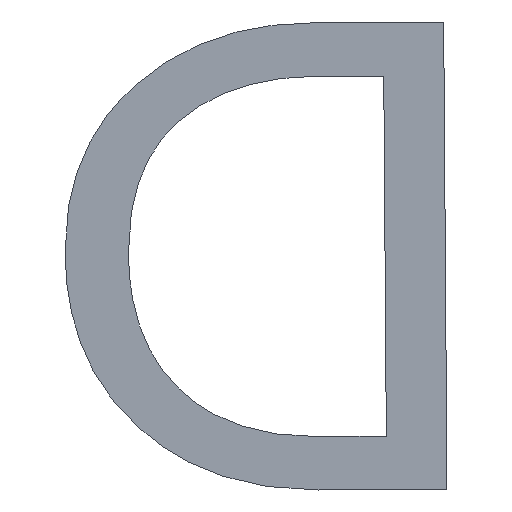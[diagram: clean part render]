
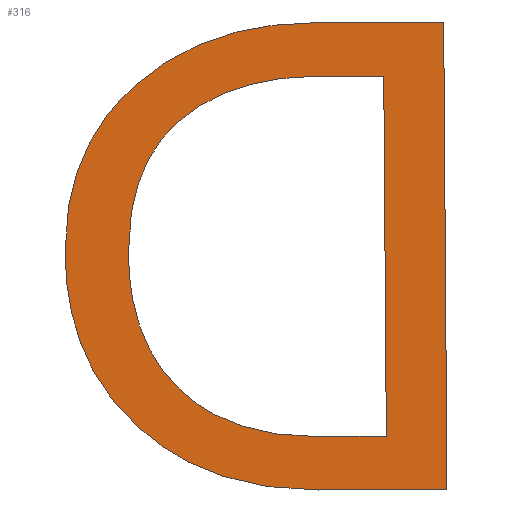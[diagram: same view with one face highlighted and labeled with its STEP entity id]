
A CAD part, front view. The second image highlights one B-rep face of the part: STEP entity #316.
In plain terms, the highlighted planar face has unit normal (0, -1, 0).
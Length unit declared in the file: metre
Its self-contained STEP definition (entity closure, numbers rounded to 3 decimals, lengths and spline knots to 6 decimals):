
#18=PLANE('',#434);
#25=LINE('',#561,#51);
#28=LINE('',#567,#54);
#31=LINE('',#573,#57);
#33=LINE('',#576,#59);
#37=LINE('',#585,#63);
#44=LINE('',#667,#70);
#51=VECTOR('',#445,1.);
#54=VECTOR('',#450,1.);
#57=VECTOR('',#455,1.);
#59=VECTOR('',#459,1.);
#63=VECTOR('',#465,1.);
#70=VECTOR('',#474,1.);
#128=ORIENTED_EDGE('',*,*,#175,.T.);
#129=ORIENTED_EDGE('',*,*,#172,.T.);
#130=ORIENTED_EDGE('',*,*,#169,.T.);
#131=ORIENTED_EDGE('',*,*,#166,.T.);
#132=ORIENTED_EDGE('',*,*,#163,.T.);
#133=ORIENTED_EDGE('',*,*,#160,.T.);
#134=ORIENTED_EDGE('',*,*,#156,.T.);
#135=ORIENTED_EDGE('',*,*,#196,.F.);
#136=ORIENTED_EDGE('',*,*,#177,.F.);
#137=ORIENTED_EDGE('',*,*,#181,.F.);
#138=ORIENTED_EDGE('',*,*,#184,.F.);
#139=ORIENTED_EDGE('',*,*,#187,.F.);
#140=ORIENTED_EDGE('',*,*,#190,.F.);
#141=ORIENTED_EDGE('',*,*,#193,.F.);
#156=EDGE_CURVE('',#198,#199,#226,.T.);
#160=EDGE_CURVE('',#202,#198,#228,.T.);
#163=EDGE_CURVE('',#204,#202,#230,.T.);
#166=EDGE_CURVE('',#206,#204,#232,.T.);
#169=EDGE_CURVE('',#208,#206,#25,.T.);
#172=EDGE_CURVE('',#210,#208,#28,.T.);
#175=EDGE_CURVE('',#199,#210,#31,.T.);
#177=EDGE_CURVE('',#212,#213,#33,.T.);
#181=EDGE_CURVE('',#216,#212,#37,.T.);
#184=EDGE_CURVE('',#218,#216,#234,.T.);
#187=EDGE_CURVE('',#220,#218,#236,.T.);
#190=EDGE_CURVE('',#222,#220,#238,.T.);
#193=EDGE_CURVE('',#224,#222,#240,.T.);
#196=EDGE_CURVE('',#213,#224,#44,.T.);
#198=VERTEX_POINT('',#493);
#199=VERTEX_POINT('',#494);
#202=VERTEX_POINT('',#515);
#204=VERTEX_POINT('',#534);
#206=VERTEX_POINT('',#553);
#208=VERTEX_POINT('',#562);
#210=VERTEX_POINT('',#568);
#212=VERTEX_POINT('',#577);
#213=VERTEX_POINT('',#578);
#216=VERTEX_POINT('',#586);
#218=VERTEX_POINT('',#602);
#220=VERTEX_POINT('',#621);
#222=VERTEX_POINT('',#640);
#224=VERTEX_POINT('',#659);
#226=B_SPLINE_CURVE_WITH_KNOTS('',3,(#489,#490,#491,#492),.UNSPECIFIED.,
 .F.,.F.,(4,4),(5.,6.),.UNSPECIFIED.);
#228=B_SPLINE_CURVE_WITH_KNOTS('',3,(#511,#512,#513,#514),.UNSPECIFIED.,
 .F.,.F.,(4,4),(4.,5.),.UNSPECIFIED.);
#230=B_SPLINE_CURVE_WITH_KNOTS('',3,(#530,#531,#532,#533),.UNSPECIFIED.,
 .F.,.F.,(4,4),(3.,4.),.UNSPECIFIED.);
#232=B_SPLINE_CURVE_WITH_KNOTS('',3,(#549,#550,#551,#552),.UNSPECIFIED.,
 .F.,.F.,(4,4),(2.,3.),.UNSPECIFIED.);
#234=B_SPLINE_CURVE_WITH_KNOTS('',3,(#598,#599,#600,#601),.UNSPECIFIED.,
 .F.,.F.,(4,4),(2.,3.),.UNSPECIFIED.);
#236=B_SPLINE_CURVE_WITH_KNOTS('',3,(#617,#618,#619,#620),.UNSPECIFIED.,
 .F.,.F.,(4,4),(3.,4.),.UNSPECIFIED.);
#238=B_SPLINE_CURVE_WITH_KNOTS('',3,(#636,#637,#638,#639),.UNSPECIFIED.,
 .F.,.F.,(4,4),(4.,5.),.UNSPECIFIED.);
#240=B_SPLINE_CURVE_WITH_KNOTS('',3,(#655,#656,#657,#658),.UNSPECIFIED.,
 .F.,.F.,(4,4),(5.,6.),.UNSPECIFIED.);
#256=EDGE_LOOP('',(#128,#129,#130,#131,#132,#133,#134));
#257=EDGE_LOOP('',(#135,#136,#137,#138,#139,#140,#141));
#274=FACE_BOUND('',#256,.T.);
#275=FACE_BOUND('',#257,.T.);
#316=ADVANCED_FACE('',(#274,#275),#18,.F.);
#434=AXIS2_PLACEMENT_3D('',#669,#476,#477);
#445=DIRECTION('',(-1.,0.,-0.007));
#450=DIRECTION('',(0.007,0.,-1.));
#455=DIRECTION('',(1.,0.,0.007));
#459=DIRECTION('',(0.007,0.,-1.));
#465=DIRECTION('',(1.,0.,0.007));
#474=DIRECTION('',(-1.,0.,-0.007));
#476=DIRECTION('',(0.,1.,0.));
#477=DIRECTION('',(0.,0.,1.));
#489=CARTESIAN_POINT('',(-0.079256,-0.053656,0.029063));
#490=CARTESIAN_POINT('',(-0.079227,-0.053656,0.029089));
#491=CARTESIAN_POINT('',(-0.079188,-0.053656,0.029102));
#492=CARTESIAN_POINT('',(-0.079139,-0.053656,0.029102));
#493=CARTESIAN_POINT('',(-0.079256,-0.053656,0.029063));
#494=CARTESIAN_POINT('',(-0.079139,-0.053656,0.029102));
#511=CARTESIAN_POINT('',(-0.0793,-0.053656,0.028948));
#512=CARTESIAN_POINT('',(-0.0793,-0.053656,0.028999));
#513=CARTESIAN_POINT('',(-0.079286,-0.053656,0.029037));
#514=CARTESIAN_POINT('',(-0.079256,-0.053656,0.029063));
#515=CARTESIAN_POINT('',(-0.0793,-0.053656,0.028948));
#530=CARTESIAN_POINT('',(-0.079256,-0.053656,0.02883));
#531=CARTESIAN_POINT('',(-0.079285,-0.053656,0.028858));
#532=CARTESIAN_POINT('',(-0.0793,-0.053656,0.028897));
#533=CARTESIAN_POINT('',(-0.0793,-0.053656,0.028948));
#534=CARTESIAN_POINT('',(-0.079256,-0.053656,0.02883));
#549=CARTESIAN_POINT('',(-0.079135,-0.053656,0.028788));
#550=CARTESIAN_POINT('',(-0.079186,-0.053656,0.028788));
#551=CARTESIAN_POINT('',(-0.079227,-0.053656,0.028802));
#552=CARTESIAN_POINT('',(-0.079256,-0.053656,0.02883));
#553=CARTESIAN_POINT('',(-0.079135,-0.053656,0.028788));
#561=CARTESIAN_POINT('',(-0.079076,-0.053656,0.028789));
#562=CARTESIAN_POINT('',(-0.079076,-0.053656,0.028789));
#567=CARTESIAN_POINT('',(-0.079078,-0.053656,0.029102));
#568=CARTESIAN_POINT('',(-0.079078,-0.053656,0.029102));
#573=CARTESIAN_POINT('',(-0.079139,-0.053656,0.029102));
#576=CARTESIAN_POINT('',(-0.079023,-0.053656,0.028743));
#577=CARTESIAN_POINT('',(-0.079026,-0.053656,0.029149));
#578=CARTESIAN_POINT('',(-0.079023,-0.053656,0.028743));
#585=CARTESIAN_POINT('',(-0.079026,-0.053656,0.029149));
#586=CARTESIAN_POINT('',(-0.079142,-0.053656,0.029149));
#598=CARTESIAN_POINT('',(-0.079295,-0.053656,0.029094));
#599=CARTESIAN_POINT('',(-0.079254,-0.053656,0.02913));
#600=CARTESIAN_POINT('',(-0.079203,-0.053656,0.029148));
#601=CARTESIAN_POINT('',(-0.079142,-0.053656,0.029149));
#602=CARTESIAN_POINT('',(-0.079295,-0.053656,0.029094));
#617=CARTESIAN_POINT('',(-0.079355,-0.053656,0.028949));
#618=CARTESIAN_POINT('',(-0.079356,-0.053656,0.029009));
#619=CARTESIAN_POINT('',(-0.079336,-0.053656,0.029057));
#620=CARTESIAN_POINT('',(-0.079295,-0.053656,0.029094));
#621=CARTESIAN_POINT('',(-0.079355,-0.053656,0.028949));
#636=CARTESIAN_POINT('',(-0.079293,-0.053656,0.028798));
#637=CARTESIAN_POINT('',(-0.079334,-0.053656,0.028836));
#638=CARTESIAN_POINT('',(-0.079355,-0.053656,0.028886));
#639=CARTESIAN_POINT('',(-0.079355,-0.053656,0.028949));
#640=CARTESIAN_POINT('',(-0.079293,-0.053656,0.028798));
#655=CARTESIAN_POINT('',(-0.079135,-0.053656,0.028742));
#656=CARTESIAN_POINT('',(-0.079199,-0.053656,0.028741));
#657=CARTESIAN_POINT('',(-0.079252,-0.053656,0.02876));
#658=CARTESIAN_POINT('',(-0.079293,-0.053656,0.028798));
#659=CARTESIAN_POINT('',(-0.079135,-0.053656,0.028742));
#667=CARTESIAN_POINT('',(-0.079135,-0.053656,0.028742));
#669=CARTESIAN_POINT('',(-0.079226,-0.053656,0.029135));
